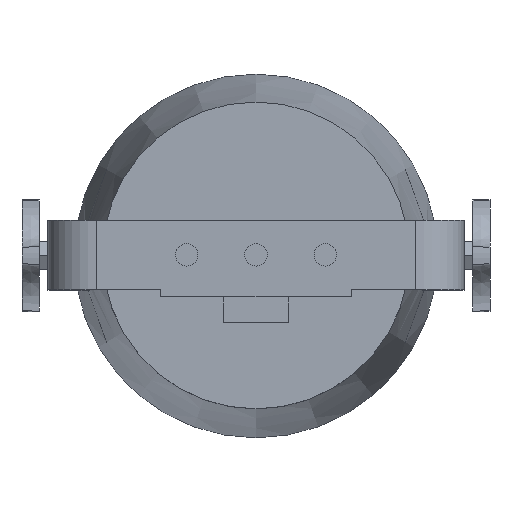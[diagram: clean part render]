
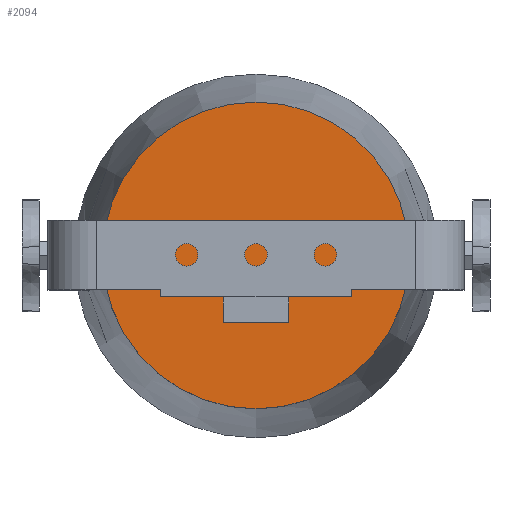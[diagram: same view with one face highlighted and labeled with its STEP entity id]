
A CAD part, top view. The second image highlights one B-rep face of the part: STEP entity #2094.
In plain terms, the highlighted planar face has unit normal (0, 0, 1) as drawn and (0, 1, 0) by its records, which use the part's own axes.
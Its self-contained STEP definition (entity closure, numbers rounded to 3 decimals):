
#104=FACE_BOUND('',#416,.T.);
#178=PLANE('',#2310);
#288=FACE_OUTER_BOUND('',#415,.T.);
#415=EDGE_LOOP('',(#1914,#1915));
#416=EDGE_LOOP('',(#1916,#1917,#1918,#1919));
#587=LINE('',#3552,#769);
#591=LINE('',#3560,#773);
#594=LINE('',#3566,#776);
#597=LINE('',#3571,#779);
#769=VECTOR('',#2823,10.);
#773=VECTOR('',#2829,10.);
#776=VECTOR('',#2834,10.);
#779=VECTOR('',#2839,10.);
#860=CIRCLE('',#2311,88.472);
#861=CIRCLE('',#2312,88.472);
#1044=VERTEX_POINT('',#3550);
#1045=VERTEX_POINT('',#3551);
#1048=VERTEX_POINT('',#3559);
#1050=VERTEX_POINT('',#3565);
#1063=VERTEX_POINT('',#3744);
#1064=VERTEX_POINT('',#3745);
#1329=EDGE_CURVE('',#1044,#1045,#587,.T.);
#1333=EDGE_CURVE('',#1045,#1048,#591,.T.);
#1336=EDGE_CURVE('',#1048,#1050,#594,.T.);
#1339=EDGE_CURVE('',#1050,#1044,#597,.T.);
#1356=EDGE_CURVE('',#1063,#1064,#860,.T.);
#1357=EDGE_CURVE('',#1064,#1063,#861,.T.);
#1914=ORIENTED_EDGE('',*,*,#1356,.T.);
#1915=ORIENTED_EDGE('',*,*,#1357,.T.);
#1916=ORIENTED_EDGE('',*,*,#1329,.T.);
#1917=ORIENTED_EDGE('',*,*,#1333,.T.);
#1918=ORIENTED_EDGE('',*,*,#1336,.T.);
#1919=ORIENTED_EDGE('',*,*,#1339,.T.);
#2094=ADVANCED_FACE('',(#288,#104),#178,.T.);
#2310=AXIS2_PLACEMENT_3D('',#3743,#2875,#2876);
#2311=AXIS2_PLACEMENT_3D('',#3746,#2877,#2878);
#2312=AXIS2_PLACEMENT_3D('',#3747,#2879,#2880);
#2823=DIRECTION('',(0.,0.,-1.));
#2829=DIRECTION('',(1.,0.,0.));
#2834=DIRECTION('',(0.,0.,1.));
#2839=DIRECTION('',(-1.,0.,0.));
#2875=DIRECTION('center_axis',(0.,1.,0.));
#2876=DIRECTION('ref_axis',(0.,0.,1.));
#2877=DIRECTION('center_axis',(0.,1.,0.));
#2878=DIRECTION('ref_axis',(1.,0.,0.));
#2879=DIRECTION('center_axis',(0.,1.,0.));
#2880=DIRECTION('ref_axis',(1.,0.,0.));
#3550=CARTESIAN_POINT('',(-183.4,250.15,-66.32));
#3551=CARTESIAN_POINT('',(-183.4,250.15,-86.32));
#3552=CARTESIAN_POINT('',(-183.4,250.15,-95.636));
#3559=CARTESIAN_POINT('',(-145.4,250.15,-86.32));
#3560=CARTESIAN_POINT('',(-154.9,250.15,-86.32));
#3565=CARTESIAN_POINT('',(-145.4,250.15,-66.32));
#3566=CARTESIAN_POINT('',(-145.4,250.15,-85.636));
#3571=CARTESIAN_POINT('',(-173.9,250.15,-66.32));
#3743=CARTESIAN_POINT('Origin',(-164.4,250.15,-104.951));
#3744=CARTESIAN_POINT('',(-164.4,250.15,-16.479));
#3745=CARTESIAN_POINT('',(-164.4,250.15,-193.423));
#3746=CARTESIAN_POINT('Origin',(-164.4,250.15,-104.951));
#3747=CARTESIAN_POINT('Origin',(-164.4,250.15,-104.951));
